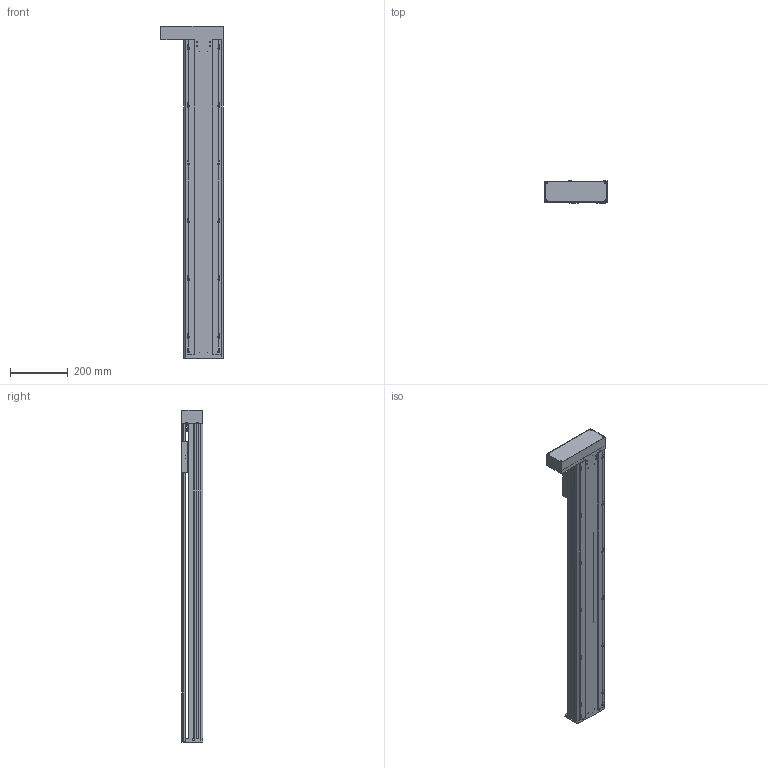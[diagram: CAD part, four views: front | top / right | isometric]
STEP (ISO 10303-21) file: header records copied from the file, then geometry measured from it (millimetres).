
FILE_DESCRIPTION(/* description */ (''),/* implementation_level */ '2;1');
FILE_NAME(/* name */ 'TKA136-FL-900_asm1.stp',/* time_stamp */ '2016-05-07T13:30:13+08:00',/* author */ (''),/* organization */ (''),/* preprocessor_version */ 'ST-DEVELOPER v15',/* originating_system */ 'SIEMENS PLM Software NX 8.5',/* authorisation */ '');
FILE_SCHEMA (('AUTOMOTIVE_DESIGN { 1 0 10303 214 3 1 1 1 }'));
Length unit declared in the file: millimetre
Products named in the file (3): 100-02; 100-01; TKA136-FL-900_asm1
Assembly tree (2 placements, depth 2):
  TKA136-FL-900_asm1
    100-01
    100-02
Bounding box: 216 x 75 x 1150 mm (x, y, z)
Volume: 3451642.5 mm3; surface area: 1368756 mm2
Topology: 2 solids, 12 shells, 918 faces, 2636 edges, 1721 vertices
Faces by surface type: cylinder 442, plane 425, cone 51
Full cylindrical faces by diameter (mm): 2.5 x14, 3 x2, 3.3 x13, 4 x4, 4.2 x6, 4.5 x24, 5 x22, 5.5 x26, 6.6 x18, 8 x20, 10 x9, 10.5 x14, 11 x4, 11.6 x1, 12 x9, 15 x3, 16 x5, 17 x1, 24 x5, 26 x1, 28 x1, 46 x1, 50 x1
Entity records: 31248 total; most frequent: CARTESIAN_POINT 8430, DIRECTION 4698, ORIENTED_EDGE 4466, EDGE_CURVE 2233, AXIS2_PLACEMENT_3D 1779, VERTEX_POINT 1592, EDGE_LOOP 1372, LINE 1140
